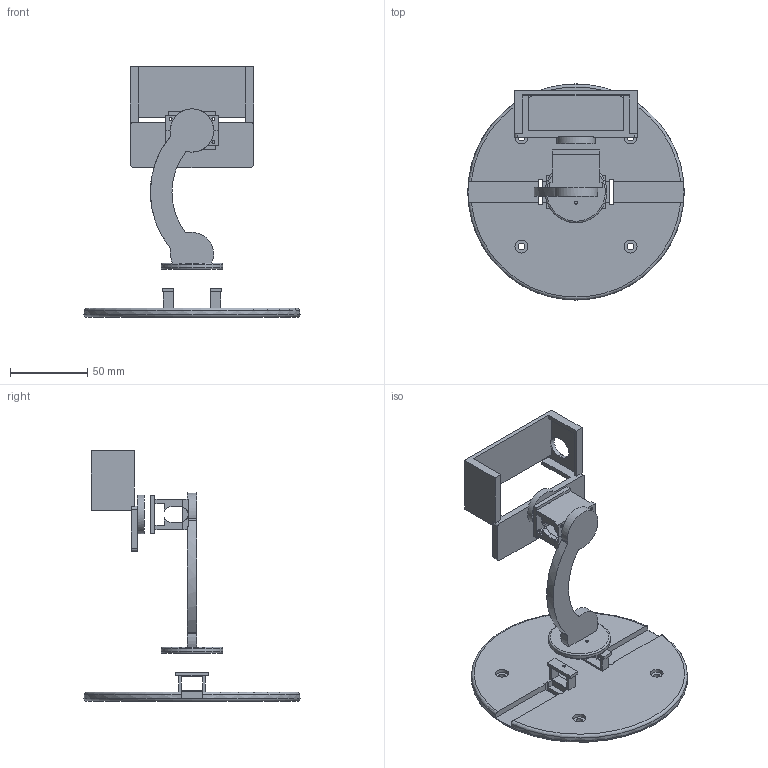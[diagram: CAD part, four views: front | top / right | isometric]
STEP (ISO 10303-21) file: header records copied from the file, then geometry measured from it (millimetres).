
FILE_DESCRIPTION(('Open CASCADE Model'),'2;1');
FILE_NAME('Open CASCADE Shape Model','2026-08-28T13:53:50',('Author'),( 'Open CASCADE'),'Open CASCADE STEP processor 7.8','Open CASCADE 7.8' ,'Unknown');
FILE_SCHEMA(('AUTOMOTIVE_DESIGN { 1 0 10303 214 1 1 1 1 }'));
Length unit declared in the file: millimetre
Products named in the file (5): C270_PanTilt_Printable_Assembly; PanServo_StabilityBase; CurvedArm_SG90_TiltHolder; SG90_RetainingCap; Logitech_C270_ScrewlessCradle
Assembly tree (4 placements, depth 2):
  C270_PanTilt_Printable_Assembly
    PanServo_StabilityBase
    CurvedArm_SG90_TiltHolder
    SG90_RetainingCap
    Logitech_C270_ScrewlessCradle
Bounding box: 140 x 140 x 162.31 mm (x, y, z)
Volume: 135754.6 mm3; surface area: 66477 mm2
Topology: 4 solids, 4 shells, 205 faces, 576 edges, 381 vertices
Faces by surface type: plane 147, cylinder 49, torus 5, bspline 4
Full cylindrical faces by diameter (mm): 1.8 x4, 1.9 x2, 2 x8, 2.4 x4, 3.2 x2, 4.4 x4, 8.4 x4, 21 x1, 25 x1, 40 x1, 140 x1
Entity records: 14581 total; most frequent: CARTESIAN_POINT 3398, DIRECTION 1891, ORIENTED_EDGE 1152, PCURVE 1152, DEFINITIONAL_REPRESENTATION 1152, LINE 1085, VECTOR 1085, EDGE_CURVE 576
